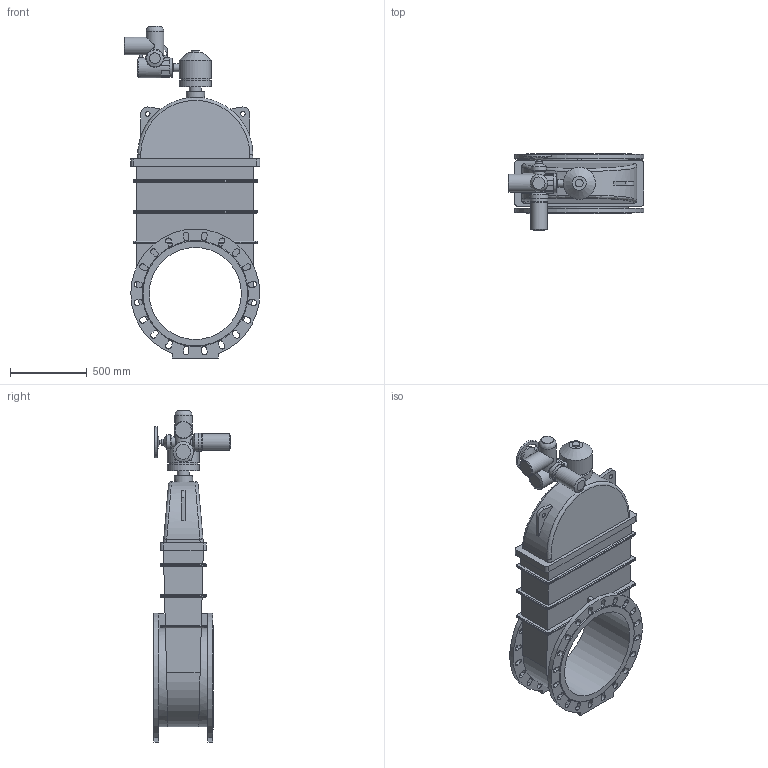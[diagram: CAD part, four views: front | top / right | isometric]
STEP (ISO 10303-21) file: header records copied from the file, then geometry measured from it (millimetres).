
FILE_DESCRIPTION(('STEP AP203'), '1');
FILE_NAME('Çàäâèæêà 47GV.Z DN600 PN10_PN16 + ðåäóêòîð+ÌÒ903.À10', '', ('UNSPECIFIED'), ('UNSPECIFIED'), 'ASCON STEP Converter 1.6', 'ASCON Math Kernel', '');
FILE_SCHEMA(('CONFIG_CONTROL_DESIGN'));
Length unit declared in the file: millimetre
Bounding box: 883 x 503 x 2162 mm (x, y, z)
Volume: 236087205.6 mm3; surface area: 5800748.7 mm2
Topology: 1 solids, 1 shells, 443 faces, 1141 edges, 737 vertices
Faces by surface type: plane 213, cylinder 191, bspline 26, cone 12, torus 1
Full cylindrical faces by diameter (mm): 8.5 x4, 12 x4, 17.5 x4, 22 x4, 24 x1, 30 x3, 42 x1, 50 x2, 66 x1, 72 x1, 80 x2, 100 x1, 108 x1, 114 x1, 115 x1, 116 x1, 119 x1, 120 x1, 125 x1, 132 x1, 190 x1, 210 x2, 600 x1
Entity records: 20543 total; most frequent: CARTESIAN_POINT 6176, DIRECTION 2205, ORIENTED_EDGE 2174, EDGE_CURVE 1087, AXIS2_PLACEMENT_3D 785, VERTEX_POINT 737, LINE 635, VECTOR 635
